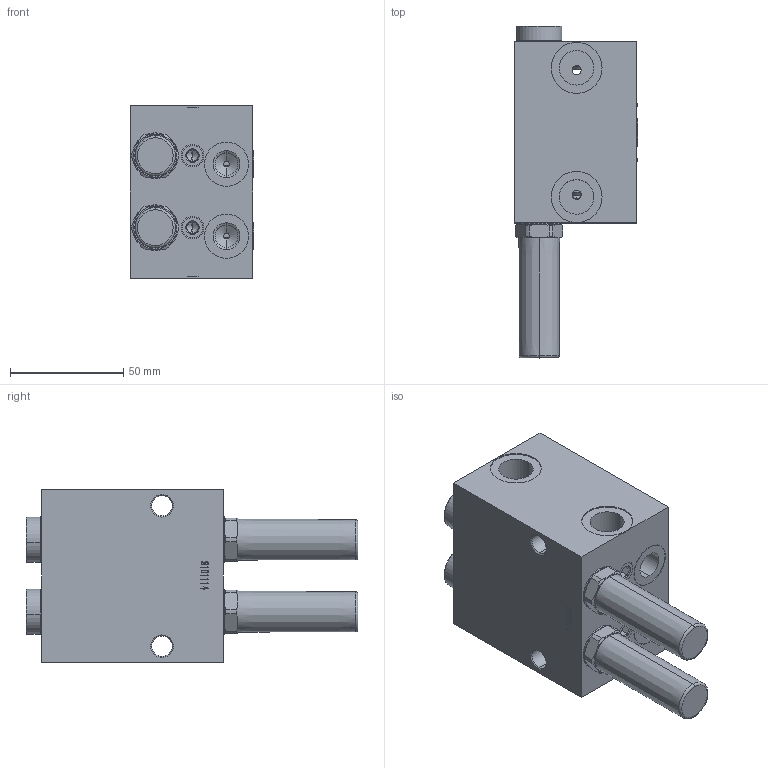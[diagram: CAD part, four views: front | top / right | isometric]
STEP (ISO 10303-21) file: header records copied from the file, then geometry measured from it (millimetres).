
FILE_DESCRIPTION (( 'STEP AP203' ), '1' );
FILE_NAME ('2101114.STEP', '2022-04-25T01:09:44', ( '' ), ( '' ), 'SwSTEP 2.0', 'SolidWorks 2016', '' );
FILE_SCHEMA (( 'CONFIG_CONTROL_DESIGN' ));
Length unit declared in the file: millimetre
Products named in the file (1): 2101114
Bounding box: 54.5 x 146.5 x 76 mm (x, y, z)
Volume: 306510.4 mm3; surface area: 94693 mm2
Topology: 53 solids, 53 shells, 1639 faces, 4025 edges, 2536 vertices
Faces by surface type: plane 508, cylinder 450, cone 368, bspline 249, torus 56, sphere 8
Entity records: 74550 total; most frequent: CARTESIAN_POINT 37822, ORIENTED_EDGE 7970, DIRECTION 6969, EDGE_CURVE 3985, AXIS2_PLACEMENT_3D 2631, VERTEX_POINT 2524, EDGE_LOOP 1823, LINE 1707
